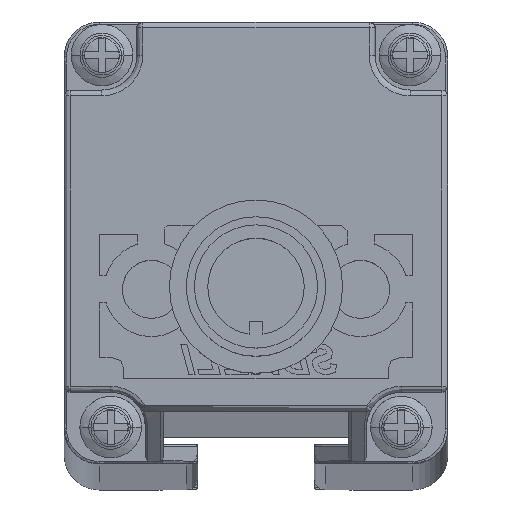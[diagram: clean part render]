
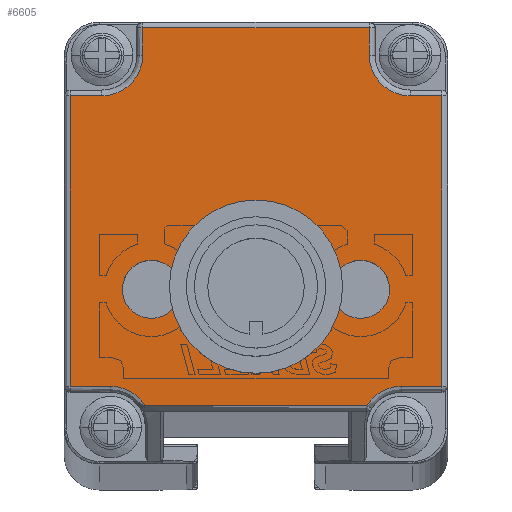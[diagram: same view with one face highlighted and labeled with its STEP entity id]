
A CAD part, top view. The second image highlights one B-rep face of the part: STEP entity #6605.
In plain terms, the highlighted planar face has unit normal (0, 0, 1).
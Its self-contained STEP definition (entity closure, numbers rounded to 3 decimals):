
#2629=CARTESIAN_POINT('',(0.65,-8.054,
1165.276));
#2630=DIRECTION('',(0.,0.,1.));
#2631=DIRECTION('',(1.,0.,0.));
#2632=AXIS2_PLACEMENT_3D('',#2629,#2630,#2631);
#2634=CARTESIAN_POINT('',(0.65,-8.054,
1165.276));
#2635=DIRECTION('',(0.,0.,1.));
#2636=DIRECTION('',(-1.,0.,0.));
#2637=AXIS2_PLACEMENT_3D('',#2634,#2635,#2636);
#2639=CARTESIAN_POINT('',(9.65,-8.055,1165.276));
#2640=DIRECTION('',(0.,0.,1.));
#2641=DIRECTION('',(1.,-0.007,0.));
#2642=AXIS2_PLACEMENT_3D('',#2639,#2640,#2641);
#2644=CARTESIAN_POINT('',(9.65,-8.055,1165.276));
#2645=DIRECTION('',(0.,0.,1.));
#2646=DIRECTION('',(-1.,0.007,0.));
#2647=AXIS2_PLACEMENT_3D('',#2644,#2645,#2646);
#2649=CARTESIAN_POINT('',(-8.35,-8.054,
1165.276));
#2650=DIRECTION('',(0.,0.,1.));
#2651=DIRECTION('',(1.,0.007,0.));
#2652=AXIS2_PLACEMENT_3D('',#2649,#2650,#2651);
#2654=CARTESIAN_POINT('',(-8.35,-8.054,
1165.276));
#2655=DIRECTION('',(0.,0.,1.));
#2656=DIRECTION('',(-1.,-0.007,0.));
#2657=AXIS2_PLACEMENT_3D('',#2654,#2655,#2656);
#2659=CARTESIAN_POINT('',(-11.85,-19.904,
1165.276));
#2660=DIRECTION('',(0.,0.,1.));
#2661=DIRECTION('',(0.849,0.528,0.));
#2662=AXIS2_PLACEMENT_3D('',#2659,#2660,#2661);
#2664=CARTESIAN_POINT('',(-12.6,12.094,1165.276));
#2665=DIRECTION('',(0.,0.,1.));
#2666=DIRECTION('',(0.,-1.,0.));
#2667=AXIS2_PLACEMENT_3D('',#2664,#2665,#2666);
#2669=CARTESIAN_POINT('',(13.9,12.094,1165.276));
#2670=DIRECTION('',(0.,0.,1.));
#2671=DIRECTION('',(-1.,0.,0.));
#2672=AXIS2_PLACEMENT_3D('',#2669,#2670,#2671);
#2674=CARTESIAN_POINT('',(13.15,-19.904,1165.276));
#2675=DIRECTION('',(0.,0.,1.));
#2676=DIRECTION('',(0.,1.,0.));
#2677=AXIS2_PLACEMENT_3D('',#2674,#2675,#2676);
#4225=DIRECTION('',(1.,0.,0.));
#4226=VECTOR('',#4225,19.056);
#4227=CARTESIAN_POINT('',(-8.878,-18.056,
1165.276));
#4228=LINE('',#4227,#4226);
#4893=DIRECTION('',(0.,1.,0.));
#4894=VECTOR('',#4893,2.35);
#4895=CARTESIAN_POINT('',(10.4,12.094,1165.276));
#4896=LINE('',#4895,#4894);
#4916=DIRECTION('',(-1.,0.,0.));
#4917=VECTOR('',#4916,19.5);
#4918=CARTESIAN_POINT('',(10.4,14.444,1165.276));
#4919=LINE('',#4918,#4917);
#4940=DIRECTION('',(0.,-1.,0.));
#4941=VECTOR('',#4940,2.35);
#4942=CARTESIAN_POINT('',(-9.1,14.444,1165.276));
#4943=LINE('',#4942,#4941);
#4967=DIRECTION('',(-1.,0.,0.));
#4968=VECTOR('',#4967,2.75);
#4969=CARTESIAN_POINT('',(-12.6,8.594,1165.276));
#4970=LINE('',#4969,#4968);
#4998=DIRECTION('',(0.,-1.,0.));
#4999=VECTOR('',#4998,24.998);
#5000=CARTESIAN_POINT('',(-15.35,8.594,1165.276));
#5001=LINE('',#5000,#4999);
#5022=DIRECTION('',(1.,0.,0.));
#5023=VECTOR('',#5022,3.5);
#5024=CARTESIAN_POINT('',(-15.35,-16.404,
1165.276));
#5025=LINE('',#5024,#5023);
#5086=DIRECTION('',(-1.,0.,0.));
#5087=VECTOR('',#5086,2.75);
#5088=CARTESIAN_POINT('',(16.65,8.594,1165.276));
#5089=LINE('',#5088,#5087);
#5326=DIRECTION('',(1.,0.,0.));
#5327=VECTOR('',#5326,3.5);
#5328=CARTESIAN_POINT('',(13.15,-16.404,1165.276));
#5329=LINE('',#5328,#5327);
#5357=DIRECTION('',(0.,1.,0.));
#5358=VECTOR('',#5357,24.998);
#5359=CARTESIAN_POINT('',(16.65,-16.404,1165.276));
#5360=LINE('',#5359,#5358);
#5721=CARTESIAN_POINT('',(12.15,-8.072,1165.276));
#5722=VERTEX_POINT('',#5721);
#5723=CARTESIAN_POINT('',(7.15,-8.039,1165.276));
#5724=VERTEX_POINT('',#5723);
#5725=CARTESIAN_POINT('',(-8.878,-18.056,
1165.276));
#5726=CARTESIAN_POINT('',(-11.85,-16.404,
1165.276));
#5727=VERTEX_POINT('',#5725);
#5728=VERTEX_POINT('',#5726);
#5729=CARTESIAN_POINT('',(-15.35,-16.404,
1165.276));
#5730=VERTEX_POINT('',#5729);
#5731=CARTESIAN_POINT('',(-15.35,8.594,1165.276));
#5732=VERTEX_POINT('',#5731);
#5733=CARTESIAN_POINT('',(-12.6,8.594,1165.276));
#5734=VERTEX_POINT('',#5733);
#5735=CARTESIAN_POINT('',(-9.1,12.094,1165.276));
#5736=VERTEX_POINT('',#5735);
#5737=CARTESIAN_POINT('',(-9.1,14.444,1165.276));
#5738=VERTEX_POINT('',#5737);
#5739=CARTESIAN_POINT('',(10.4,14.444,1165.276));
#5740=VERTEX_POINT('',#5739);
#5741=CARTESIAN_POINT('',(10.4,12.094,1165.276));
#5742=VERTEX_POINT('',#5741);
#5743=CARTESIAN_POINT('',(13.9,8.594,1165.276));
#5744=VERTEX_POINT('',#5743);
#5745=CARTESIAN_POINT('',(16.65,8.594,1165.276));
#5746=VERTEX_POINT('',#5745);
#5747=CARTESIAN_POINT('',(16.65,-16.404,1165.276));
#5748=VERTEX_POINT('',#5747);
#5749=CARTESIAN_POINT('',(13.15,-16.404,1165.276));
#5750=VERTEX_POINT('',#5749);
#5751=CARTESIAN_POINT('',(10.178,-18.056,1165.276));
#5752=VERTEX_POINT('',#5751);
#5753=CARTESIAN_POINT('',(-5.85,-8.037,
1165.276));
#5754=CARTESIAN_POINT('',(-10.85,-8.07,
1165.276));
#5755=VERTEX_POINT('',#5753);
#5756=VERTEX_POINT('',#5754);
#5757=CARTESIAN_POINT('',(3.65,-8.054,1165.276));
#5758=CARTESIAN_POINT('',(-2.35,-8.054,
1165.276));
#5759=VERTEX_POINT('',#5757);
#5760=VERTEX_POINT('',#5758);
#6554=CARTESIAN_POINT('',(0.65,0.944,
1165.276));
#6555=DIRECTION('',(0.,0.,1.));
#6556=DIRECTION('',(1.,0.,0.));
#6557=AXIS2_PLACEMENT_3D('',#6554,#6555,#6556);
#6558=PLANE('',#6557);
#6560=ORIENTED_EDGE('',*,*,#6559,.T.);
#6562=ORIENTED_EDGE('',*,*,#6561,.F.);
#6564=ORIENTED_EDGE('',*,*,#6563,.F.);
#6566=ORIENTED_EDGE('',*,*,#6565,.F.);
#6568=ORIENTED_EDGE('',*,*,#6567,.T.);
#6570=ORIENTED_EDGE('',*,*,#6569,.F.);
#6572=ORIENTED_EDGE('',*,*,#6571,.F.);
#6574=ORIENTED_EDGE('',*,*,#6573,.F.);
#6576=ORIENTED_EDGE('',*,*,#6575,.T.);
#6578=ORIENTED_EDGE('',*,*,#6577,.F.);
#6580=ORIENTED_EDGE('',*,*,#6579,.F.);
#6582=ORIENTED_EDGE('',*,*,#6581,.F.);
#6584=ORIENTED_EDGE('',*,*,#6583,.T.);
#6586=ORIENTED_EDGE('',*,*,#6585,.F.);
#6587=EDGE_LOOP('',(#6560,#6562,#6564,#6566,#6568,#6570,#6572,#6574,#6576,#6578,
#6580,#6582,#6584,#6586));
#6588=FACE_OUTER_BOUND('',#6587,.F.);
#6589=ORIENTED_EDGE('',*,*,#6541,.T.);
#6590=ORIENTED_EDGE('',*,*,#6502,.T.);
#6591=EDGE_LOOP('',(#6589,#6590));
#6592=FACE_BOUND('',#6591,.F.);
#6594=ORIENTED_EDGE('',*,*,#6593,.T.);
#6596=ORIENTED_EDGE('',*,*,#6595,.T.);
#6597=EDGE_LOOP('',(#6594,#6596));
#6598=FACE_BOUND('',#6597,.F.);
#6600=ORIENTED_EDGE('',*,*,#6599,.T.);
#6602=ORIENTED_EDGE('',*,*,#6601,.T.);
#6603=EDGE_LOOP('',(#6600,#6602));
#6604=FACE_BOUND('',#6603,.F.);
#2633=CIRCLE('',#2632,3.);
#2638=CIRCLE('',#2637,3.);
#2643=CIRCLE('',#2642,2.5);
#2648=CIRCLE('',#2647,2.5);
#2653=CIRCLE('',#2652,2.5);
#2658=CIRCLE('',#2657,2.5);
#2663=CIRCLE('',#2662,3.5);
#2668=CIRCLE('',#2667,3.5);
#2673=CIRCLE('',#2672,3.5);
#2678=CIRCLE('',#2677,3.5);
#6502=EDGE_CURVE('',#5724,#5722,#2648,.T.);
#6541=EDGE_CURVE('',#5722,#5724,#2643,.T.);
#6559=EDGE_CURVE('',#5727,#5728,#2663,.T.);
#6561=EDGE_CURVE('',#5730,#5728,#5025,.T.);
#6563=EDGE_CURVE('',#5732,#5730,#5001,.T.);
#6565=EDGE_CURVE('',#5734,#5732,#4970,.T.);
#6567=EDGE_CURVE('',#5734,#5736,#2668,.T.);
#6569=EDGE_CURVE('',#5738,#5736,#4943,.T.);
#6571=EDGE_CURVE('',#5740,#5738,#4919,.T.);
#6573=EDGE_CURVE('',#5742,#5740,#4896,.T.);
#6575=EDGE_CURVE('',#5742,#5744,#2673,.T.);
#6577=EDGE_CURVE('',#5746,#5744,#5089,.T.);
#6579=EDGE_CURVE('',#5748,#5746,#5360,.T.);
#6581=EDGE_CURVE('',#5750,#5748,#5329,.T.);
#6583=EDGE_CURVE('',#5750,#5752,#2678,.T.);
#6585=EDGE_CURVE('',#5727,#5752,#4228,.T.);
#6593=EDGE_CURVE('',#5755,#5756,#2653,.T.);
#6595=EDGE_CURVE('',#5756,#5755,#2658,.T.);
#6599=EDGE_CURVE('',#5759,#5760,#2633,.T.);
#6601=EDGE_CURVE('',#5760,#5759,#2638,.T.);
#6605=ADVANCED_FACE('',(#6588,#6592,#6598,#6604),#6558,.T.);
